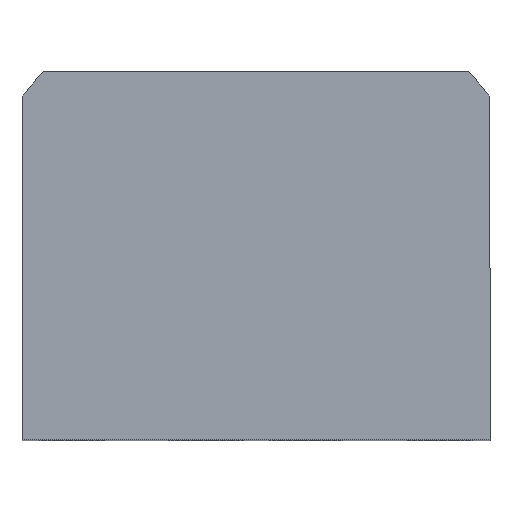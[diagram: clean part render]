
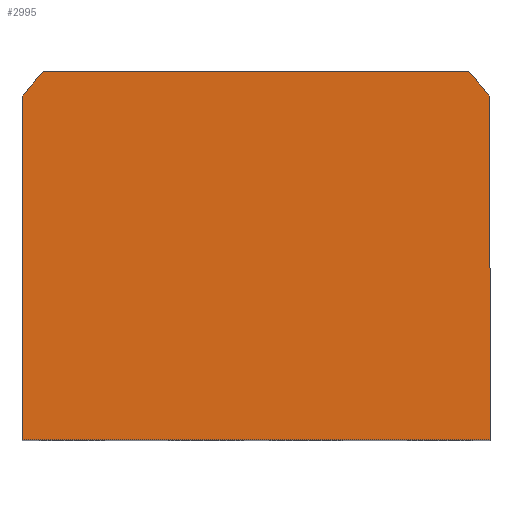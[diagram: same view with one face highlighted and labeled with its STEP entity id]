
A CAD part, top view. The second image highlights one B-rep face of the part: STEP entity #2995.
In plain terms, the highlighted planar face has unit normal (0, 0, 1).
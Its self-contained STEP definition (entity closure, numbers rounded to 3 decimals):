
#151 = CARTESIAN_POINT ( 'NONE',  ( 0., 0., 37.5 ) ) ;
#310 = EDGE_CURVE ( 'NONE', #7304, #11313, #4767, .T. ) ;
#541 = DIRECTION ( 'NONE',  ( 0., 0., 1. ) ) ;
#657 = CIRCLE ( 'NONE', #11576, 58.5 ) ;
#891 = EDGE_LOOP ( 'NONE', ( #7481, #8756, #13237, #10863, #4774, #13471 ) ) ;
#912 = CARTESIAN_POINT ( 'NONE',  ( 0., 0., 37.5 ) ) ;
#974 = CARTESIAN_POINT ( 'NONE',  ( 47., -34., 37.5 ) ) ;
#1125 = AXIS2_PLACEMENT_3D ( 'NONE', #151, #2316, #2422 ) ;
#1479 = DIRECTION ( 'NONE',  ( -1., 0., 0. ) ) ;
#1527 = CARTESIAN_POINT ( 'NONE',  ( 0., 0., 37.5 ) ) ;
#1671 = PLANE ( 'NONE',  #13662 ) ;
#1949 = VERTEX_POINT ( 'NONE', #11262 ) ;
#2316 = DIRECTION ( 'NONE',  ( 0., 0., 1. ) ) ;
#2422 = DIRECTION ( 'NONE',  ( 1., 0., 0. ) ) ;
#2473 = VERTEX_POINT ( 'NONE', #14147 ) ;
#2995 = ADVANCED_FACE ( 'NONE', ( #3681 ), #1671, .T. ) ;
#3681 = FACE_OUTER_BOUND ( 'NONE', #891, .T. ) ;
#3940 = VECTOR ( 'NONE', #14098, 1000. ) ;
#4303 = EDGE_CURVE ( 'NONE', #7217, #7304, #5687, .T. ) ;
#4767 = CIRCLE ( 'NONE', #1125, 58.5 ) ;
#4774 = ORIENTED_EDGE ( 'NONE', *, *, #6347, .T. ) ;
#4826 = CARTESIAN_POINT ( 'NONE',  ( -42.688, 40., 37.5 ) ) ;
#5394 = DIRECTION ( 'NONE',  ( 1., 0., 0. ) ) ;
#5428 = CARTESIAN_POINT ( 'NONE',  ( 47., -34., 37.5 ) ) ;
#5687 = LINE ( 'NONE', #12007, #3940 ) ;
#6347 = EDGE_CURVE ( 'NONE', #7283, #1949, #657, .T. ) ;
#6615 = DIRECTION ( 'NONE',  ( 1., 0., 0. ) ) ;
#6791 = VECTOR ( 'NONE', #12061, 1000. ) ;
#7012 = EDGE_CURVE ( 'NONE', #11313, #7283, #7701, .T. ) ;
#7087 = CARTESIAN_POINT ( 'NONE',  ( 42.688, 40., 37.5 ) ) ;
#7217 = VERTEX_POINT ( 'NONE', #974 ) ;
#7283 = VERTEX_POINT ( 'NONE', #14577 ) ;
#7304 = VERTEX_POINT ( 'NONE', #13485 ) ;
#7481 = ORIENTED_EDGE ( 'NONE', *, *, #10887, .T. ) ;
#7490 = LINE ( 'NONE', #5428, #13126 ) ;
#7701 = LINE ( 'NONE', #4826, #13166 ) ;
#8756 = ORIENTED_EDGE ( 'NONE', *, *, #4303, .T. ) ;
#9742 = CARTESIAN_POINT ( 'NONE',  ( -47., -34., 37.5 ) ) ;
#9868 = EDGE_CURVE ( 'NONE', #1949, #2473, #13491, .T. ) ;
#10863 = ORIENTED_EDGE ( 'NONE', *, *, #7012, .T. ) ;
#10887 = EDGE_CURVE ( 'NONE', #2473, #7217, #7490, .T. ) ;
#11262 = CARTESIAN_POINT ( 'NONE',  ( -47., 34.832, 37.5 ) ) ;
#11313 = VERTEX_POINT ( 'NONE', #7087 ) ;
#11576 = AXIS2_PLACEMENT_3D ( 'NONE', #912, #12238, #5394 ) ;
#12007 = CARTESIAN_POINT ( 'NONE',  ( 47., 34.832, 37.5 ) ) ;
#12061 = DIRECTION ( 'NONE',  ( 0., -1., 0. ) ) ;
#12238 = DIRECTION ( 'NONE',  ( 0., 0., 1. ) ) ;
#13126 = VECTOR ( 'NONE', #6615, 1000. ) ;
#13166 = VECTOR ( 'NONE', #1479, 1000. ) ;
#13237 = ORIENTED_EDGE ( 'NONE', *, *, #310, .T. ) ;
#13471 = ORIENTED_EDGE ( 'NONE', *, *, #9868, .T. ) ;
#13485 = CARTESIAN_POINT ( 'NONE',  ( 47., 34.832, 37.5 ) ) ;
#13491 = LINE ( 'NONE', #9742, #6791 ) ;
#13662 = AXIS2_PLACEMENT_3D ( 'NONE', #1527, #541, #14005 ) ;
#14005 = DIRECTION ( 'NONE',  ( 1., 0., 0. ) ) ;
#14098 = DIRECTION ( 'NONE',  ( 0., 1., 0. ) ) ;
#14147 = CARTESIAN_POINT ( 'NONE',  ( -47., -34., 37.5 ) ) ;
#14577 = CARTESIAN_POINT ( 'NONE',  ( -42.688, 40., 37.5 ) ) ;
